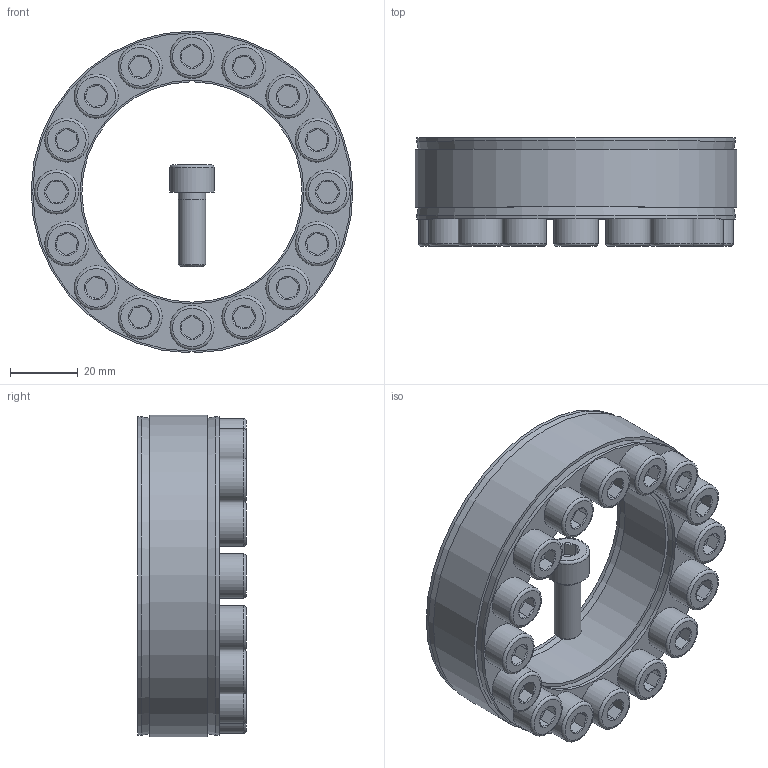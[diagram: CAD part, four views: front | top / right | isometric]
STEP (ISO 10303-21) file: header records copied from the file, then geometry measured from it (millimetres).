
FILE_DESCRIPTION( ( 'Unknown' ), '1' );
FILE_NAME( 'C:/Dokumente und Einstellungen/Sven/Desktop/homepage/cad - homepage/KBS40/KBS 40 - 65 x 95.stp', 'Unknown', ( 'Unknown' ), ( 'Unknown' ), 'XStep 1.0', 'Unknown', ' ' );
FILE_SCHEMA( ( 'automotive_design' ) );
Length unit declared in the file: millimetre
Products named in the file (18): Assem1; KBS 40 65x95; ISO 4762 M8x22; ISO 4762 M8x22-oa0; ISO 4762 M8x22-oa1; ISO 4762 M8x22-oa2; ISO 4762 M8x22-oa3; ISO 4762 M8x22-oa4; ISO 4762 M8x22-oa5; ISO 4762 M8x22-oa6; ISO 4762 M8x22-oa7; ISO 4762 M8x22-oa8; ISO 4762 M8x22-oa9; ISO 4762 M8x22-oa10; ISO 4762 M8x22-oa11; ISO 4762 M8x22-oa12; ISO 4762 M8x22-oa13; ISO 4762 M8x22-oa14
Bounding box: 95 x 32 x 94.99 mm (x, y, z)
Volume: 202515.9 mm3; surface area: 95781.7 mm2
Topology: 34 solids, 34 shells, 892 faces, 1644 edges, 948 vertices
Faces by surface type: plane 424, cone 232, cylinder 172, torus 64
Full cylindrical faces by diameter (mm): 7 x32, 8 x96, 13 x32, 66 x4, 94 x4
Entity records: 10927 total; most frequent: CARTESIAN_POINT 2292, DIRECTION 1808, ORIENTED_EDGE 1304, AXIS2_PLACEMENT_3D 788, EDGE_LOOP 680, EDGE_CURVE 652, FACE_OUTER_BOUND 562, ADVANCED_FACE 446
